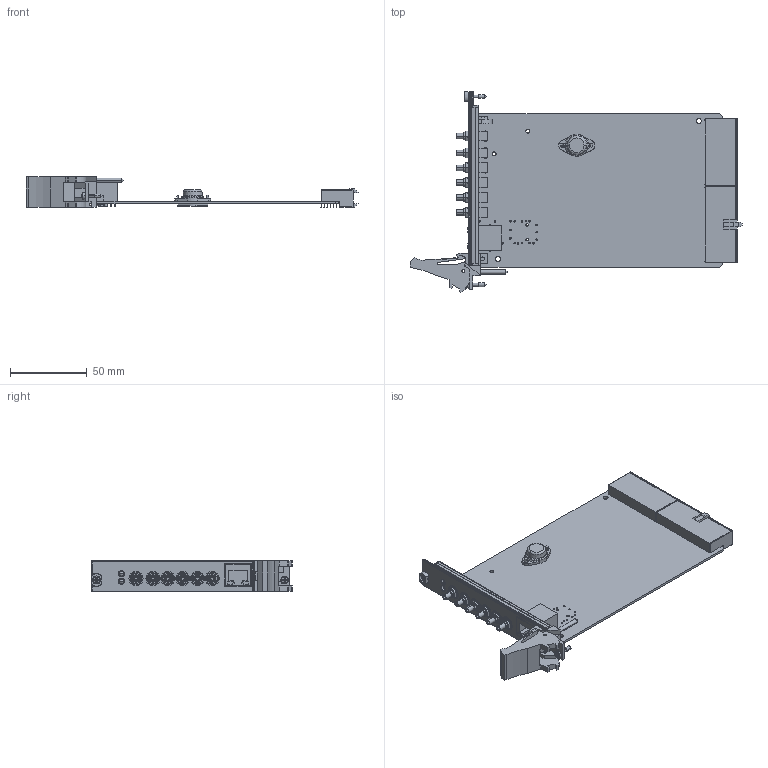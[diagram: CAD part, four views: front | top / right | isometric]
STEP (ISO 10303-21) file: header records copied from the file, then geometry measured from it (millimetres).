
FILE_DESCRIPTION((''),'2;1');
FILE_NAME('CU_CCA_PXI-6683-SW','2014-01-14T',('gvillanu'),(''),'PRO/ENGINEER BY PARAMETRIC TECHNOLOGY CORPORATION, 2011490','PRO/ENGINEER BY PARAMETRIC TECHNOLOGY CORPORATION, 2011490','');
FILE_SCHEMA(('CONFIG_CONTROL_DESIGN'));
Length unit declared in the file: inch
Products named in the file (1): CU_CCA_PXI-6683-SW
Bounding box: 216.08 x 130.5 x 20.49 mm (x, y, z)
Surface area: 61565.8 mm2 (no closed solid volume)
Topology: 0 solids, 97 shells, 980 faces, 3226 edges, 2340 vertices
Faces by surface type: plane 596, cylinder 298, cone 50, torus 18, sphere 10, bspline 8
Entity records: 38085 total; most frequent: CARTESIAN_POINT 9289, DIRECTION 6210, ORIENTED_EDGE 5201, EDGE_CURVE 3210, VERTEX_POINT 2340, AXIS2_PLACEMENT_3D 2171, VECTOR 1868, LINE 1868
